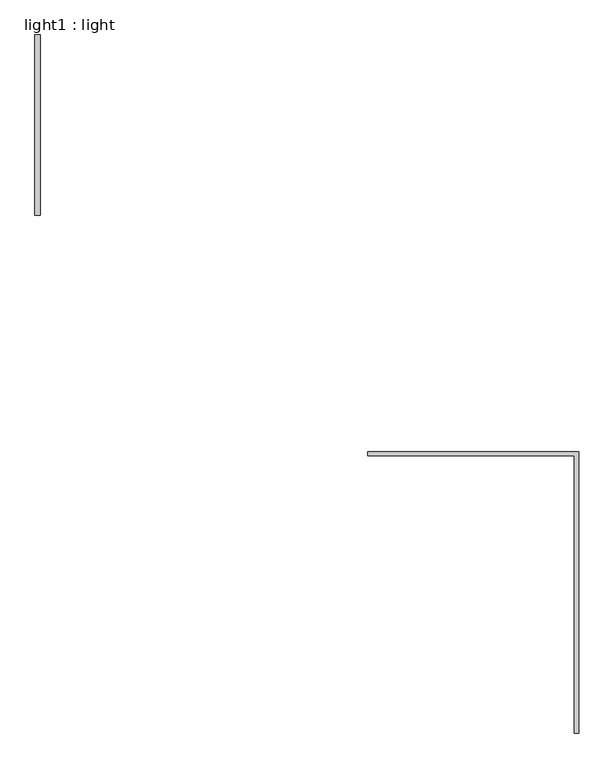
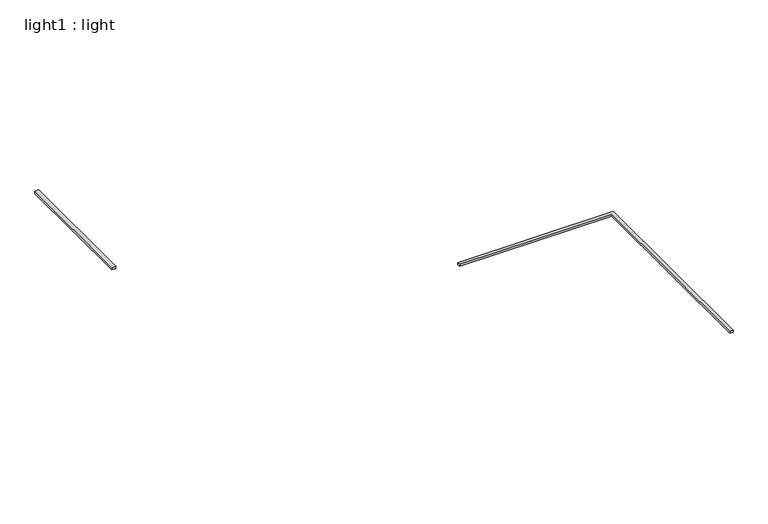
"""IFC4 building model written with IfcOpenShell, lengths in millimetres: proxy geometry, light1 : light."""

from ifc_helpers import new_model, si_unit, frame, origin, place, context, project, spatial, polyline, outline, extrude, source, transform, mapped, element, save


def light1_light_bb3200ce(model_context):
    return source(origin(), model_context, "Body", "SweptSolid", [
        extrude(outline(polyline([(92547.8833874, 17241.9552908), (90651.7794713, 17241.9552908), (90651.7794713, 17279.0614237), (92591.985489, 17279.0614237), (92591.985489, 14691.9552908), (92547.8833874, 14691.9552908), (92547.8833874, 17241.9552908)])), frame((0.0, 0.0, 2833.664738), z_axis=(0.0, 0.0, 1.0), x_axis=(1.0, 0.0, 0.0)), (0.0, 0.0, 1.0), 27.3515048),
        extrude(outline(polyline([(87588.7972847, 21113.0934632), (87638.7972847, 21113.0934632), (87638.7972847, 19454.3174421), (87588.7972847, 19454.3174421), (87588.7972847, 21113.0934632)])), frame((0.0, 0.0, 2518.0350926), z_axis=(0.0, 0.0, 1.0), x_axis=(1.0, 0.0, 0.0)), (0.0, 0.0, 1.0), 31.9649074),
    ])


if __name__ == "__main__":
    model = new_model("IFC4")
    model_context = context("Model", 3, world=origin())
    ifc_project = project(units=[si_unit("LENGTHUNIT", "METRE", prefix="MILLI")], contexts=[model_context])
    site = spatial("IfcSite", under=ifc_project)
    building = spatial("IfcBuilding", under=site)
    placement = place(None, origin())
    light1_light_shape = light1_light_bb3200ce(model_context)
    element("IfcBuildingElementProxy", 1, Name="light1 : light", ObjectType="light1 : light", at=placement, inside=building, context=model_context, shape_type="MappedRepresentation", body=[
        mapped(light1_light_shape, transform((0.0, 0.0, 0.0), x_axis=(1.0, 0.0, 0.0), y_axis=(0.0, 1.0, 0.0), z_axis=(0.0, 0.0, 1.0))),
    ])
    save(model, "model.ifc")
